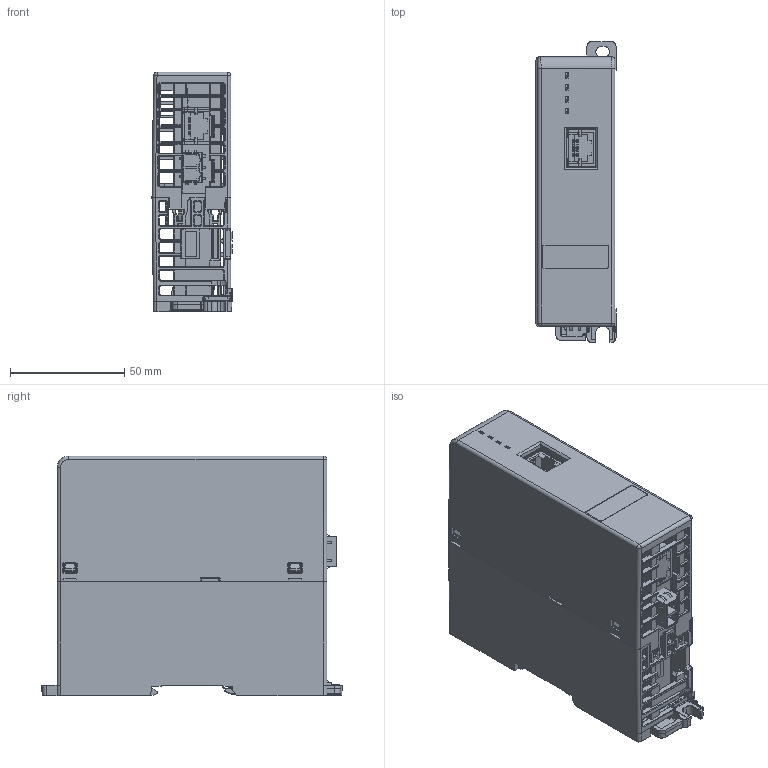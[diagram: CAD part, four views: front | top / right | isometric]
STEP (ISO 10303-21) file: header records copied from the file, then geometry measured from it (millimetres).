
FILE_DESCRIPTION((''),'2;1');
FILE_NAME('10002207284_ASM','2016-03-08T',('amwrobel'),('Rockwell Automation'),'PRO/ENGINEER BY PARAMETRIC TECHNOLOGY CORPORATION, 2012480','PRO/ENGINEER BY PARAMETRIC TECHNOLOGY CORPORATION, 2012480','');
FILE_SCHEMA(('CONFIG_CONTROL_DESIGN'));
Products named in the file (13): 97787901; 97764702; 97767201; 97385901_ASM; PCB-3-PORT-ROUTER; DS_94405531; CN_94845601; CN_94262501; SW_94828201; PN-16991; 10000051002_ASM; 97787801; 10002207284_ASM
Assembly tree (16 placements, depth 3):
  10002207284_ASM
    97385901_ASM
      97787901
      97764702
      97767201
    10000051002_ASM
      PCB-3-PORT-ROUTER
      DS_94405531  x4
      CN_94845601
      CN_94262501  x2
      SW_94828201
      PN-16991
    97787801
Bounding box: 35 x 131.51 x 104.89 mm (x, y, z)
Volume: 110474.1 mm3; surface area: 141755.3 mm2
Topology: 14 solids, 17 shells, 4462 faces, 11829 edges, 7338 vertices
Faces by surface type: plane 2323, cylinder 1354, bspline 313, cone 201, torus 197, sphere 74
Entity records: 136563 total; most frequent: CARTESIAN_POINT 40256, ORIENTED_EDGE 21048, DIRECTION 18660, EDGE_CURVE 10524, VECTOR 6920, LINE 6920, VERTEX_POINT 6472, AXIS2_PLACEMENT_3D 5870
